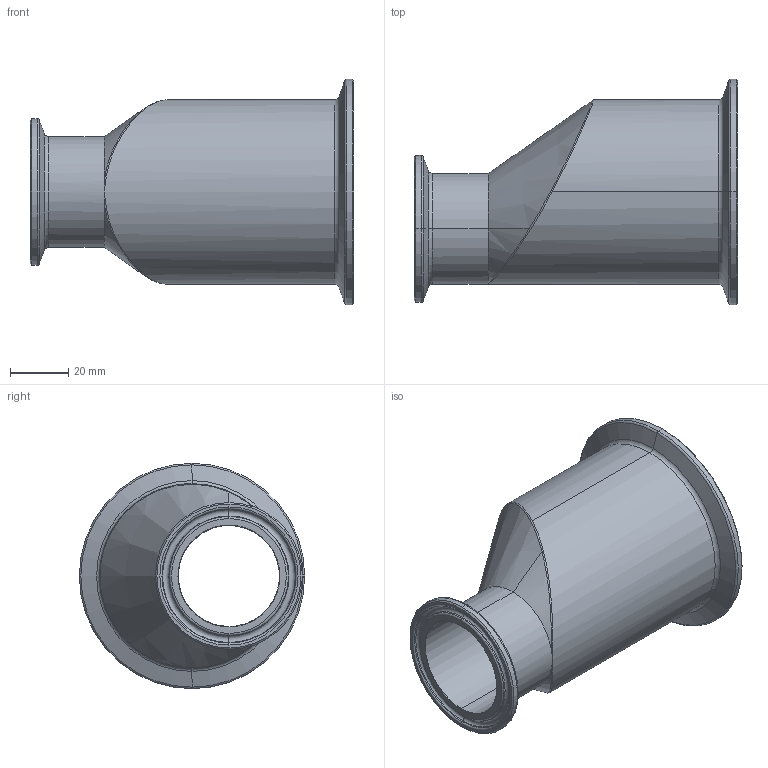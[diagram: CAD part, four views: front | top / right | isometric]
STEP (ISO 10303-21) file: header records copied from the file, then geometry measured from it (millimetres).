
FILE_DESCRIPTION (( 'STEP AP214' ), '1' );
FILE_NAME ('TEG32SCC6L2.5x1.5-...STEP', '2016-06-01T13:01:47', ( 'eran' ), ( '' ), 'SwSTEP 2.0', 'SolidWorks 2016', '' );
FILE_SCHEMA (( 'AUTOMOTIVE_DESIGN' ));
Length unit declared in the file: millimetre
Products named in the file (1): TEG32SCC6L2.5x1.5-..
Bounding box: 111.12 x 77.5 x 77.5 mm (x, y, z)
Volume: 127379.3 mm3; surface area: 39632.6 mm2
Topology: 1 solids, 1 shells, 70 faces, 150 edges, 80 vertices
Faces by surface type: torus 25, cone 24, cylinder 12, bspline 5, plane 4
Entity records: 2647 total; most frequent: CARTESIAN_POINT 1111, DIRECTION 356, ORIENTED_EDGE 292, AXIS2_PLACEMENT_3D 161, EDGE_CURVE 146, CIRCLE 95, VERTEX_POINT 80, EDGE_LOOP 74
